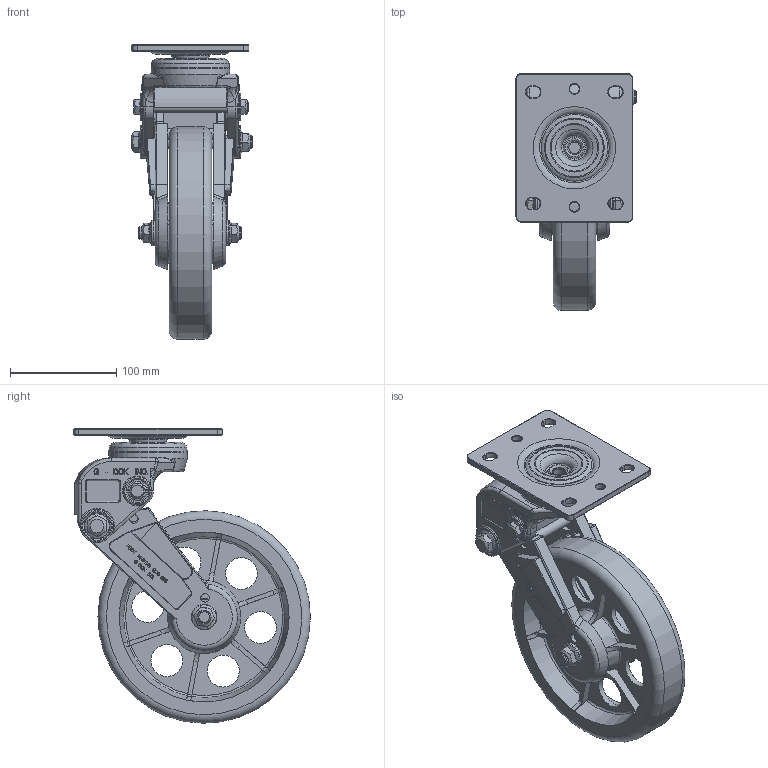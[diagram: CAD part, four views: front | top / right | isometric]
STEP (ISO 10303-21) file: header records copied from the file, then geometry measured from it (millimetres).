
FILE_DESCRIPTION(/* description */ (''),/* implementation_level */ '2;1');
FILE_NAME(/* name */ 'D:\도면\GDS\단순화\GDS-200\GDS-200-ARF-PEU.stp',/* time_stamp */ '2015-07-09T10:07:48+09:00',/* author */ ('GR-DT-1-007'),/* organization */ (''),/* preprocessor_version */ 'ST-DEVELOPER v15.6',/* originating_system */ 'Autodesk Inventor 2015',/* authorisation */ '');
FILE_SCHEMA (('AUTOMOTIVE_DESIGN { 1 0 10303 214 3 1 1 }'));
Products named in the file (1): GDS-200-ARF-PEU
Bounding box: 114.5 x 222.86 x 277.22 mm (x, y, z)
Volume: 1285229.8 mm3; surface area: 290996.6 mm2
Topology: 4 solids, 4 shells, 2568 faces, 6948 edges, 4523 vertices
Faces by surface type: bspline 1149, plane 856, cylinder 304, torus 139, cone 112, sphere 8
Full cylindrical faces by diameter (mm): 8 x4, 9 x2, 10 x4, 10.7 x1, 12 x4, 12.2 x2, 13 x1, 18 x1, 18.6 x2, 20 x3, 20.4 x2, 21.667 x4, 24 x4, 25 x1, 26 x2, 27 x1, 28.333 x4, 29 x1, 30 x7, 30.6 x1, 31 x2, 39 x1, 41.54 x1, 42.34 x1, 74 x1, 200 x1
Entity records: 96409 total; most frequent: CARTESIAN_POINT 38038, ORIENTED_EDGE 13388, DIRECTION 8127, EDGE_CURVE 6694, VERTEX_POINT 4457, LINE 2975, VECTOR 2975, EDGE_LOOP 2947
